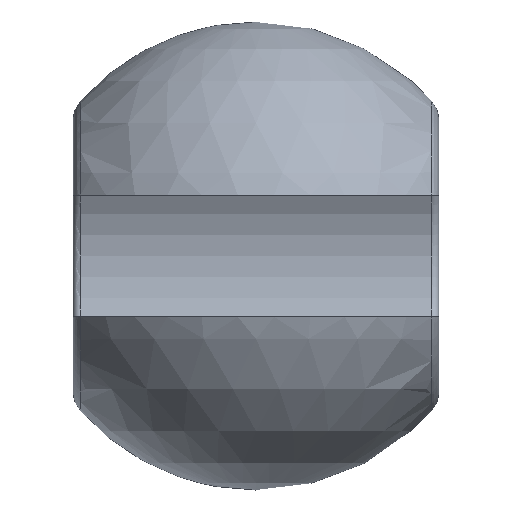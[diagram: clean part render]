
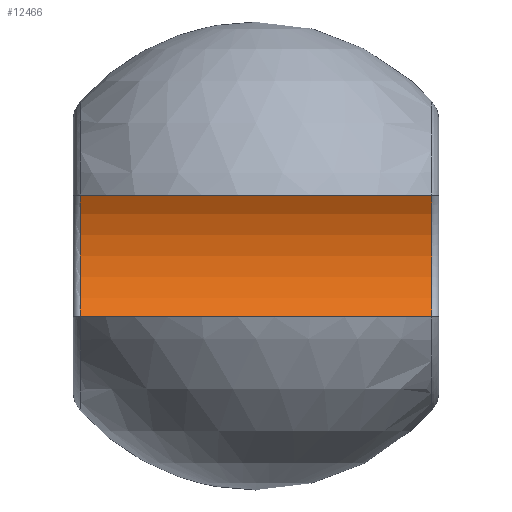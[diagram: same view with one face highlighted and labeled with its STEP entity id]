
A CAD part, front view. The second image highlights one B-rep face of the part: STEP entity #12466.
In plain terms, the highlighted cylindrical face has radius 6.363 mm (diameter 12.725 mm), a partial arc.
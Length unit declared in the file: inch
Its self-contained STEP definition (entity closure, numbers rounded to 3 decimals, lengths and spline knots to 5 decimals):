
#22=CYLINDRICAL_SURFACE('',#14010,0.2505);
#799=LINE('',#25097,#1398);
#802=LINE('',#25146,#1401);
#1398=VECTOR('',#17603,0.3937);
#1401=VECTOR('',#17608,0.3937);
#2537=FACE_OUTER_BOUND('',#3264,.T.);
#3264=EDGE_LOOP('',(#11073,#11074,#11075,#11076));
#4474=CIRCLE('',#14011,0.2505);
#4475=CIRCLE('',#14012,0.2505);
#5676=VERTEX_POINT('',#25085);
#5677=VERTEX_POINT('',#25096);
#5683=VERTEX_POINT('',#25134);
#5684=VERTEX_POINT('',#25145);
#7476=EDGE_CURVE('',#5677,#5676,#799,.T.);
#7484=EDGE_CURVE('',#5684,#5683,#802,.T.);
#7487=EDGE_CURVE('',#5684,#5676,#4474,.T.);
#7488=EDGE_CURVE('',#5677,#5683,#4475,.T.);
#11073=ORIENTED_EDGE('',*,*,#7476,.T.);
#11074=ORIENTED_EDGE('',*,*,#7487,.F.);
#11075=ORIENTED_EDGE('',*,*,#7484,.T.);
#11076=ORIENTED_EDGE('',*,*,#7488,.F.);
#12466=ADVANCED_FACE('',(#2537),#22,.F.);
#14010=AXIS2_PLACEMENT_3D('',#25159,#17610,#17611);
#14011=AXIS2_PLACEMENT_3D('',#25160,#17612,#17613);
#14012=AXIS2_PLACEMENT_3D('',#25161,#17614,#17615);
#17603=DIRECTION('',(1.,0.,0.));
#17608=DIRECTION('',(-1.,0.,0.));
#17610=DIRECTION('center_axis',(1.,0.,0.));
#17611=DIRECTION('ref_axis',(0.,1.,0.));
#17612=DIRECTION('center_axis',(-1.,0.,0.));
#17613=DIRECTION('ref_axis',(0.,-1.,0.));
#17614=DIRECTION('center_axis',(1.,0.,0.));
#17615=DIRECTION('ref_axis',(0.,-1.,0.));
#25085=CARTESIAN_POINT('',(0.36,-0.21708,-0.125));
#25096=CARTESIAN_POINT('',(-0.36,-0.21708,-0.125));
#25097=CARTESIAN_POINT('',(0.,-0.21708,-0.125));
#25134=CARTESIAN_POINT('',(-0.36,-0.21708,0.125));
#25145=CARTESIAN_POINT('',(0.36,-0.21708,0.125));
#25146=CARTESIAN_POINT('',(0.,-0.21708,0.125));
#25159=CARTESIAN_POINT('Origin',(0.,0.,0.));
#25160=CARTESIAN_POINT('Origin',(0.36,0.,0.));
#25161=CARTESIAN_POINT('Origin',(-0.36,0.,0.));
